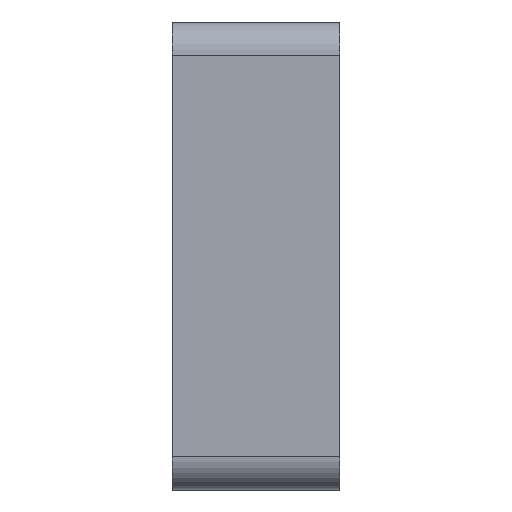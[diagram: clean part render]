
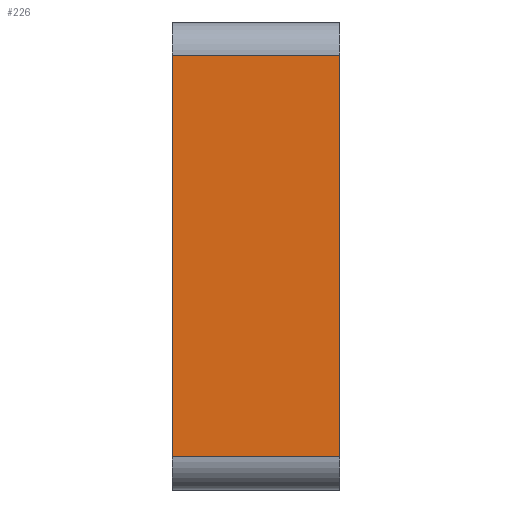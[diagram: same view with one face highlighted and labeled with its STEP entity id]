
A CAD part, left-side view. The second image highlights one B-rep face of the part: STEP entity #226.
In plain terms, the highlighted planar face has unit normal (-1, 0, 0).
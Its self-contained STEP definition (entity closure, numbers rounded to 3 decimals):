
#3 = CARTESIAN_POINT ( 'NONE',  ( -55., 5., 6. ) ) ;
#25 = VECTOR ( 'NONE', #63, 1000. ) ;
#43 = VERTEX_POINT ( 'NONE', #515 ) ;
#63 = DIRECTION ( 'NONE',  ( 0., 0., 1. ) ) ;
#79 = DIRECTION ( 'NONE',  ( 0., 0., -1. ) ) ;
#84 = CARTESIAN_POINT ( 'NONE',  ( -55., 0., -6. ) ) ;
#89 = AXIS2_PLACEMENT_3D ( 'NONE', #187, #192, #79 ) ;
#96 = PLANE ( 'NONE',  #89 ) ;
#100 = CARTESIAN_POINT ( 'NONE',  ( -55., 0., 7. ) ) ;
#138 = CARTESIAN_POINT ( 'NONE',  ( -55., 5., 6. ) ) ;
#149 = VERTEX_POINT ( 'NONE', #84 ) ;
#167 = EDGE_LOOP ( 'NONE', ( #487, #540, #451, #649 ) ) ;
#169 = VECTOR ( 'NONE', #447, 1000. ) ;
#180 = CARTESIAN_POINT ( 'NONE',  ( -55., 0., 6. ) ) ;
#187 = CARTESIAN_POINT ( 'NONE',  ( -55., 5., 7. ) ) ;
#192 = DIRECTION ( 'NONE',  ( 1., 0., 0. ) ) ;
#226 = ADVANCED_FACE ( 'NONE', ( #638 ), #96, .F. ) ;
#250 = VECTOR ( 'NONE', #547, 1000. ) ;
#256 = EDGE_CURVE ( 'NONE', #337, #599, #290, .T. ) ;
#290 = LINE ( 'NONE', #3, #431 ) ;
#328 = EDGE_CURVE ( 'NONE', #43, #599, #532, .T. ) ;
#337 = VERTEX_POINT ( 'NONE', #180 ) ;
#401 = LINE ( 'NONE', #575, #250 ) ;
#423 = EDGE_CURVE ( 'NONE', #43, #149, #401, .T. ) ;
#431 = VECTOR ( 'NONE', #626, 1000. ) ;
#447 = DIRECTION ( 'NONE',  ( 0., 0., 1. ) ) ;
#451 = ORIENTED_EDGE ( 'NONE', *, *, #567, .T. ) ;
#461 = LINE ( 'NONE', #100, #169 ) ;
#487 = ORIENTED_EDGE ( 'NONE', *, *, #328, .F. ) ;
#515 = CARTESIAN_POINT ( 'NONE',  ( -55., 5., -6. ) ) ;
#532 = LINE ( 'NONE', #571, #25 ) ;
#540 = ORIENTED_EDGE ( 'NONE', *, *, #423, .T. ) ;
#547 = DIRECTION ( 'NONE',  ( 0., -1., 0. ) ) ;
#567 = EDGE_CURVE ( 'NONE', #149, #337, #461, .T. ) ;
#571 = CARTESIAN_POINT ( 'NONE',  ( -55., 5., 7. ) ) ;
#575 = CARTESIAN_POINT ( 'NONE',  ( -55., 5., -6. ) ) ;
#599 = VERTEX_POINT ( 'NONE', #138 ) ;
#626 = DIRECTION ( 'NONE',  ( 0., 1., 0. ) ) ;
#638 = FACE_OUTER_BOUND ( 'NONE', #167, .T. ) ;
#649 = ORIENTED_EDGE ( 'NONE', *, *, #256, .T. ) ;
